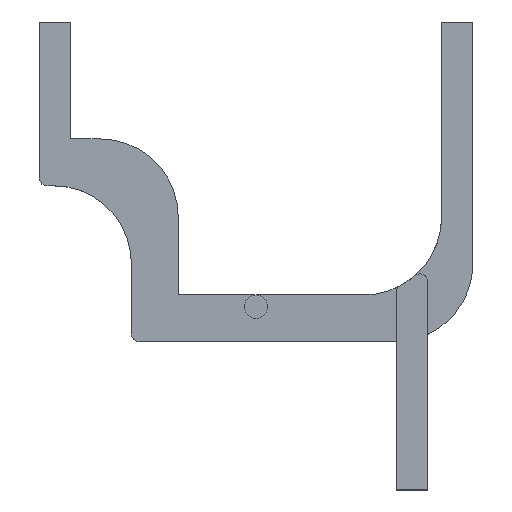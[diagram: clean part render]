
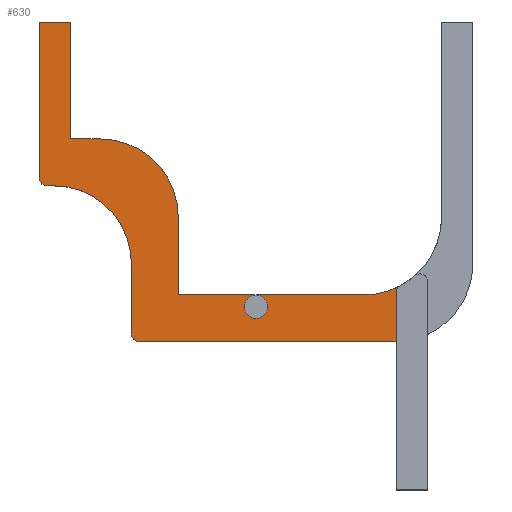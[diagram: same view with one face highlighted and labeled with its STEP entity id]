
A CAD part, top view. The second image highlights one B-rep face of the part: STEP entity #630.
In plain terms, the highlighted planar face has unit normal (0, 0, 1).
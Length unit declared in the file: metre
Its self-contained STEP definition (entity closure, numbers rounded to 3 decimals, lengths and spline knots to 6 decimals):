
#12=CIRCLE('',#676,0.01);
#21=CIRCLE('',#689,0.001);
#22=CIRCLE('',#690,0.0015);
#23=CIRCLE('',#691,0.01);
#24=CIRCLE('',#692,0.001);
#25=CIRCLE('',#693,0.01);
#26=CIRCLE('',#694,0.001);
#27=CIRCLE('',#695,0.01);
#88=ORIENTED_EDGE('',*,*,#235,.F.);
#89=ORIENTED_EDGE('',*,*,#263,.T.);
#90=ORIENTED_EDGE('',*,*,#247,.F.);
#91=ORIENTED_EDGE('',*,*,#264,.F.);
#92=ORIENTED_EDGE('',*,*,#265,.T.);
#93=ORIENTED_EDGE('',*,*,#266,.F.);
#94=ORIENTED_EDGE('',*,*,#267,.T.);
#95=ORIENTED_EDGE('',*,*,#268,.T.);
#96=ORIENTED_EDGE('',*,*,#269,.T.);
#97=ORIENTED_EDGE('',*,*,#270,.F.);
#98=ORIENTED_EDGE('',*,*,#271,.F.);
#99=ORIENTED_EDGE('',*,*,#272,.F.);
#100=ORIENTED_EDGE('',*,*,#273,.T.);
#101=ORIENTED_EDGE('',*,*,#274,.F.);
#102=ORIENTED_EDGE('',*,*,#275,.F.);
#103=ORIENTED_EDGE('',*,*,#276,.F.);
#104=ORIENTED_EDGE('',*,*,#277,.T.);
#105=ORIENTED_EDGE('',*,*,#278,.F.);
#106=ORIENTED_EDGE('',*,*,#279,.T.);
#235=EDGE_CURVE('',#328,#329,#388,.T.);
#247=EDGE_CURVE('',#338,#339,#12,.T.);
#263=EDGE_CURVE('',#328,#339,#21,.F.);
#264=EDGE_CURVE('',#349,#338,#407,.T.);
#265=EDGE_CURVE('',#349,#349,#22,.F.);
#266=EDGE_CURVE('',#350,#349,#408,.T.);
#267=EDGE_CURVE('',#350,#351,#409,.T.);
#268=EDGE_CURVE('',#351,#352,#23,.T.);
#269=EDGE_CURVE('',#352,#353,#410,.T.);
#270=EDGE_CURVE('',#354,#353,#411,.T.);
#271=EDGE_CURVE('',#355,#354,#412,.T.);
#272=EDGE_CURVE('',#356,#355,#413,.T.);
#273=EDGE_CURVE('',#356,#357,#24,.T.);
#274=EDGE_CURVE('',#358,#357,#414,.T.);
#275=EDGE_CURVE('',#359,#358,#25,.T.);
#276=EDGE_CURVE('',#360,#359,#415,.T.);
#277=EDGE_CURVE('',#360,#361,#26,.T.);
#278=EDGE_CURVE('',#362,#361,#416,.T.);
#279=EDGE_CURVE('',#362,#329,#27,.T.);
#328=VERTEX_POINT('',#929);
#329=VERTEX_POINT('',#931);
#338=VERTEX_POINT('',#955);
#339=VERTEX_POINT('',#956);
#349=VERTEX_POINT('',#987);
#350=VERTEX_POINT('',#990);
#351=VERTEX_POINT('',#992);
#352=VERTEX_POINT('',#994);
#353=VERTEX_POINT('',#996);
#354=VERTEX_POINT('',#998);
#355=VERTEX_POINT('',#1000);
#356=VERTEX_POINT('',#1002);
#357=VERTEX_POINT('',#1004);
#358=VERTEX_POINT('',#1006);
#359=VERTEX_POINT('',#1008);
#360=VERTEX_POINT('',#1010);
#361=VERTEX_POINT('',#1012);
#362=VERTEX_POINT('',#1014);
#388=LINE('',#930,#457);
#407=LINE('',#986,#476);
#408=LINE('',#989,#477);
#409=LINE('',#991,#478);
#410=LINE('',#995,#479);
#411=LINE('',#997,#480);
#412=LINE('',#999,#481);
#413=LINE('',#1001,#482);
#414=LINE('',#1005,#483);
#415=LINE('',#1009,#484);
#416=LINE('',#1013,#485);
#457=VECTOR('',#738,1.);
#476=VECTOR('',#791,1.);
#477=VECTOR('',#794,1.);
#478=VECTOR('',#795,1.);
#479=VECTOR('',#798,1.);
#480=VECTOR('',#799,1.);
#481=VECTOR('',#800,1.);
#482=VECTOR('',#801,1.);
#483=VECTOR('',#804,1.);
#484=VECTOR('',#807,1.);
#485=VECTOR('',#810,1.);
#531=EDGE_LOOP('',(#88,#89,#90,#91,#92,#93,#94,#95,#96,#97,#98,#99,#100,
#101,#102,#103,#104,#105,#106));
#568=FACE_BOUND('',#531,.T.);
#604=PLANE('',#688);
#630=ADVANCED_FACE('',(#568),#604,.T.);
#676=AXIS2_PLACEMENT_3D('',#954,#756,#757);
#688=AXIS2_PLACEMENT_3D('',#984,#787,#788);
#689=AXIS2_PLACEMENT_3D('',#985,#789,#790);
#690=AXIS2_PLACEMENT_3D('',#988,#792,#793);
#691=AXIS2_PLACEMENT_3D('',#993,#796,#797);
#692=AXIS2_PLACEMENT_3D('',#1003,#802,#803);
#693=AXIS2_PLACEMENT_3D('',#1007,#805,#806);
#694=AXIS2_PLACEMENT_3D('',#1011,#808,#809);
#695=AXIS2_PLACEMENT_3D('',#1015,#811,#812);
#738=DIRECTION('',(0.,-1.,0.));
#756=DIRECTION('',(0.,0.,1.));
#757=DIRECTION('',(1.,0.,0.));
#787=DIRECTION('',(0.,0.,1.));
#788=DIRECTION('',(1.,0.,0.));
#789=DIRECTION('',(0.,0.,1.));
#790=DIRECTION('',(1.,0.,0.));
#791=DIRECTION('',(1.,0.,0.));
#792=DIRECTION('',(0.,0.,1.));
#793=DIRECTION('',(1.,0.,0.));
#794=DIRECTION('',(1.,0.,0.));
#795=DIRECTION('',(0.,1.,0.));
#796=DIRECTION('',(0.,0.,1.));
#797=DIRECTION('',(1.,0.,0.));
#798=DIRECTION('',(-1.,0.,0.));
#799=DIRECTION('',(0.,-1.,0.));
#800=DIRECTION('',(1.,0.,0.));
#801=DIRECTION('',(0.,1.,0.));
#802=DIRECTION('',(0.,0.,1.));
#803=DIRECTION('',(1.,0.,0.));
#804=DIRECTION('',(-1.,0.,0.));
#805=DIRECTION('',(0.,0.,1.));
#806=DIRECTION('',(1.,0.,0.));
#807=DIRECTION('',(0.,1.,0.));
#808=DIRECTION('',(0.,0.,1.));
#809=DIRECTION('',(1.,0.,0.));
#810=DIRECTION('',(-1.,0.,0.));
#811=DIRECTION('',(0.,0.,1.));
#812=DIRECTION('',(1.,0.,0.));
#929=CARTESIAN_POINT('',(0.018,-0.014693,-0.020972));
#930=CARTESIAN_POINT('',(0.018,-0.01,-0.020972));
#931=CARTESIAN_POINT('',(0.018,-0.020998,-0.020972));
#954=CARTESIAN_POINT('',(0.0138,-0.005,-0.020972));
#955=CARTESIAN_POINT('',(0.0138,-0.015,-0.020972));
#956=CARTESIAN_POINT('',(0.018527,-0.013812,-0.020972));
#984=CARTESIAN_POINT('',(0.,-0.01,-0.020972));
#985=CARTESIAN_POINT('',(0.019,-0.014693,-0.020972));
#986=CARTESIAN_POINT('',(0.0069,-0.015,-0.020972));
#987=CARTESIAN_POINT('',(0.,-0.015,-0.020972));
#988=CARTESIAN_POINT('',(0.,-0.0165,-0.020972));
#989=CARTESIAN_POINT('',(0.0069,-0.015,-0.020972));
#990=CARTESIAN_POINT('',(-0.009972,-0.015,-0.020972));
#991=CARTESIAN_POINT('',(-0.009972,-0.01,-0.020972));
#992=CARTESIAN_POINT('',(-0.009972,-0.005,-0.020972));
#993=CARTESIAN_POINT('',(-0.019972,-0.005,-0.020972));
#994=CARTESIAN_POINT('',(-0.019972,0.005,-0.020972));
#995=CARTESIAN_POINT('',(-0.021886,0.005,-0.020972));
#996=CARTESIAN_POINT('',(-0.0238,0.005,-0.020972));
#997=CARTESIAN_POINT('',(-0.0238,0.0125,-0.020972));
#998=CARTESIAN_POINT('',(-0.0238,0.02,-0.020972));
#999=CARTESIAN_POINT('',(-0.0258,0.02,-0.020972));
#1000=CARTESIAN_POINT('',(-0.0278,0.02,-0.020972));
#1001=CARTESIAN_POINT('',(-0.0278,0.01,-0.020972));
#1002=CARTESIAN_POINT('',(-0.0278,0.,-0.020972));
#1003=CARTESIAN_POINT('',(-0.0268,0.,-0.020972));
#1004=CARTESIAN_POINT('',(-0.0268,-0.001,-0.020972));
#1005=CARTESIAN_POINT('',(-0.026386,-0.001,-0.020972));
#1006=CARTESIAN_POINT('',(-0.025972,-0.001,-0.020972));
#1007=CARTESIAN_POINT('',(-0.025972,-0.011,-0.020972));
#1008=CARTESIAN_POINT('',(-0.015972,-0.011,-0.020972));
#1009=CARTESIAN_POINT('',(-0.015972,-0.0155,-0.020972));
#1010=CARTESIAN_POINT('',(-0.015972,-0.02,-0.020972));
#1011=CARTESIAN_POINT('',(-0.014972,-0.02,-0.020972));
#1012=CARTESIAN_POINT('',(-0.014972,-0.021,-0.020972));
#1013=CARTESIAN_POINT('',(-0.012472,-0.021,-0.020972));
#1014=CARTESIAN_POINT('',(0.0178,-0.021,-0.020972));
#1015=CARTESIAN_POINT('',(0.0178,-0.011,-0.020972));
